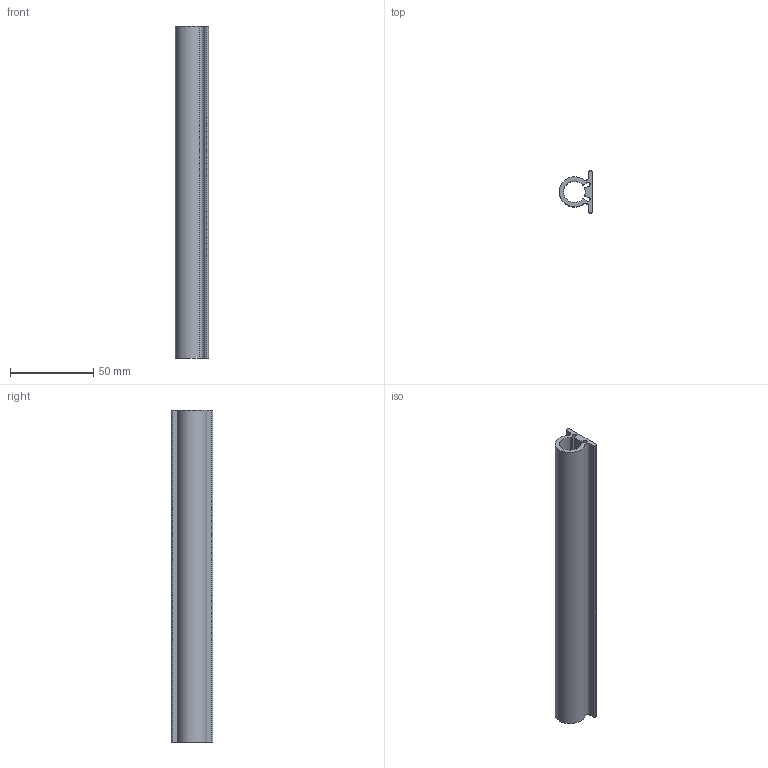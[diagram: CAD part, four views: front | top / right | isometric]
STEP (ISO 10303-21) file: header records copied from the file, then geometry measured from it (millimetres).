
FILE_DESCRIPTION((''),'2;1');
FILE_NAME('C:\Vault Klient\Projekt\Step\300-3040.stp','2009-12-04T13:25:11',('Mathias'),(''),'Autodesk Inventor 2010','Autodesk Inventor 2010','');
FILE_SCHEMA(('CONFIG_CONTROL_DESIGN'));
Length unit declared in the file: millimetre
Products named in the file (1): 300-3040-01
Bounding box: 20 x 25 x 200 mm (x, y, z)
Volume: 34894.2 mm3; surface area: 28398.5 mm2
Topology: 1 solids, 1 shells, 26 faces, 72 edges, 48 vertices
Faces by surface type: cylinder 15, plane 11
Entity records: 876 total; most frequent: DIRECTION 156, CARTESIAN_POINT 147, ORIENTED_EDGE 144, EDGE_CURVE 72, AXIS2_PLACEMENT_3D 57, VERTEX_POINT 48, VECTOR 42, LINE 42
